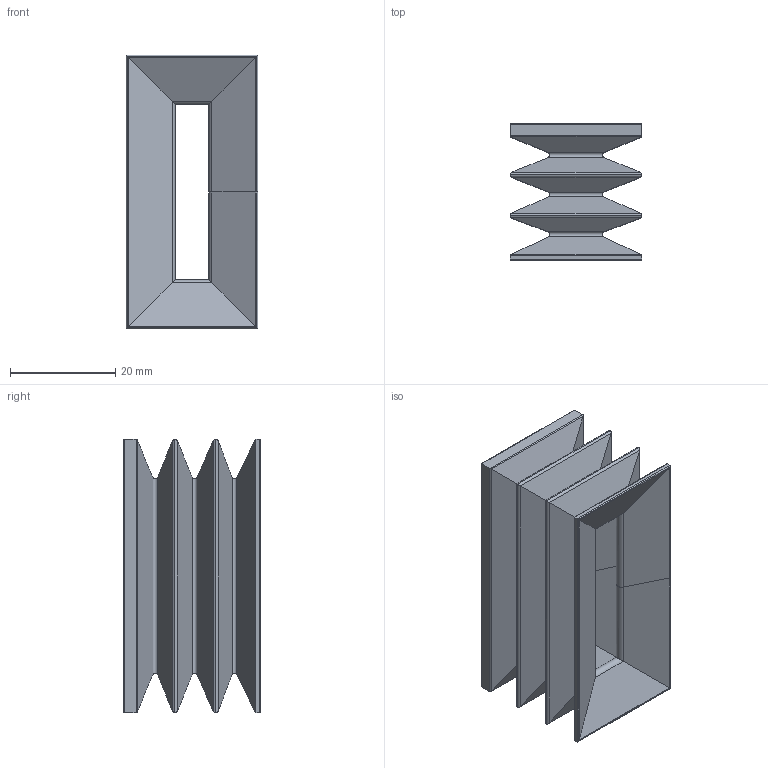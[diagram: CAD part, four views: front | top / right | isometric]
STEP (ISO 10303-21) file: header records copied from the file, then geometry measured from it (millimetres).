
FILE_DESCRIPTION (( 'STEP AP203' ), '1' );
FILE_NAME ('4P52_25_26--A_(ind_A).STEP', '2016-07-15T12:24:10', ( '' ), ( '' ), 'SwSTEP 2.0', 'SolidWorks 2016', '' );
FILE_SCHEMA (( 'CONFIG_CONTROL_DESIGN' ));
Length unit declared in the file: millimetre
Products named in the file (1): 4P52_25_26--A_(ind_A)
Bounding box: 25 x 26 x 52 mm (x, y, z)
Volume: 7633.9 mm3; surface area: 14173 mm2
Topology: 1 solids, 1 shells, 198 faces, 409 edges, 211 vertices
Faces by surface type: cylinder 104, plane 94
Entity records: 4990 total; most frequent: CARTESIAN_POINT 1059, ORIENTED_EDGE 818, DIRECTION 763, EDGE_CURVE 409, VECTOR 293, LINE 293, AXIS2_PLACEMENT_3D 235, VERTEX_POINT 211
